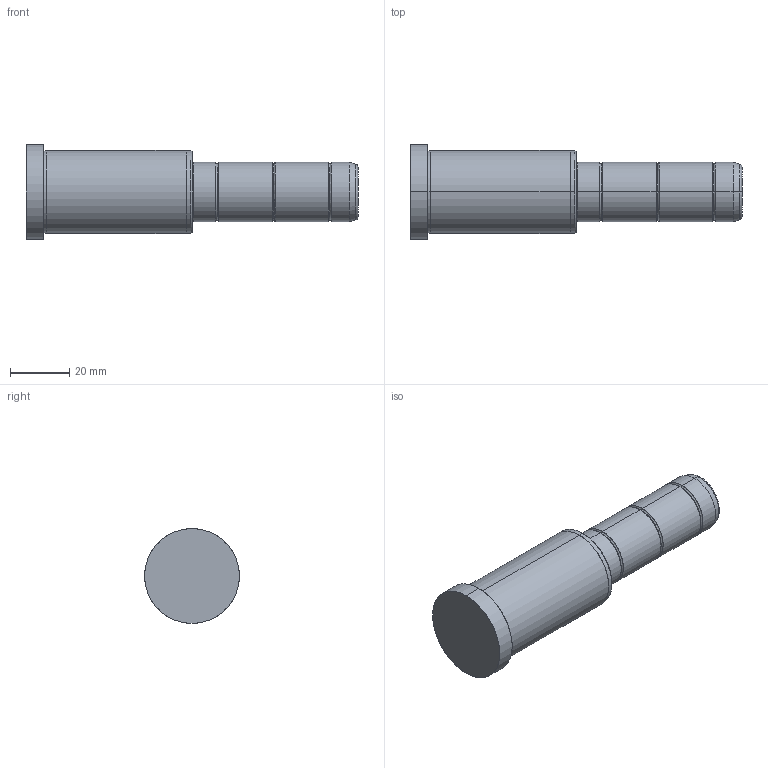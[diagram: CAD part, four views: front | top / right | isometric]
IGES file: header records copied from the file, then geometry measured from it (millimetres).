
Start section: SolidWorks IGES file using analytic representation for surfaces
Global section: file name: C:\Documents and Settings\kalite-mail\Desktop\IGS\D02\20\D02 - 20x56x56.IGS; native system: SolidWorks 2008; preprocessor: SolidWorks 2008; author: kalite-mail; date: 080616.162854; units: millimetre
Bounding box: 112 x 32 x 32 mm (x, y, z)
Surface area: 10128.9 mm2 (no closed solid volume)
Topology: 0 solids, 0 shells, 42 faces, 688 edges, 688 vertices
Faces by surface type: bspline 22, revolution 20
